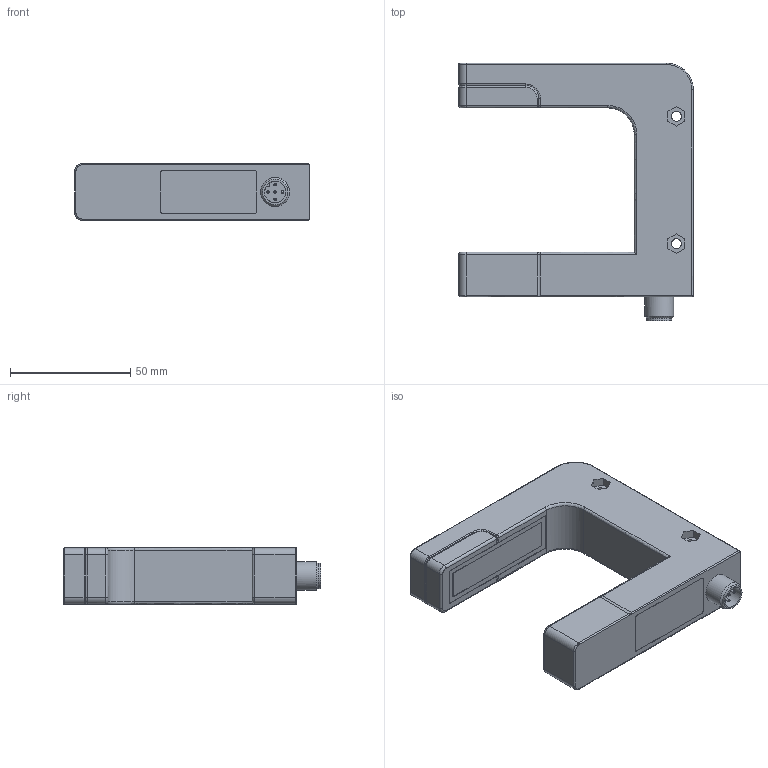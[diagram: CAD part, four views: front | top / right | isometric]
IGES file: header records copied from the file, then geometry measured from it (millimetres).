
Global section: file name: No Iges File Name specified; native system: Autodesk Inventor 2013; preprocessor: AutoDesk Inventor Iges Exporter R2013; author: Oliver Liedtke; date: 20120524.125955; units: millimetre
Bounding box: 97.51 x 107.06 x 23.5 mm (x, y, z)
Volume: 118116.3 mm3; surface area: 23672.9 mm2
Topology: 1 solids, 1 shells, 639 faces, 1664 edges, 1086 vertices
Faces by surface type: bspline 639
